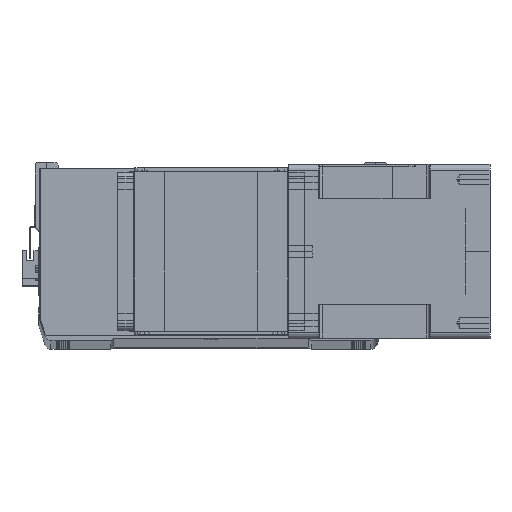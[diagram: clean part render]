
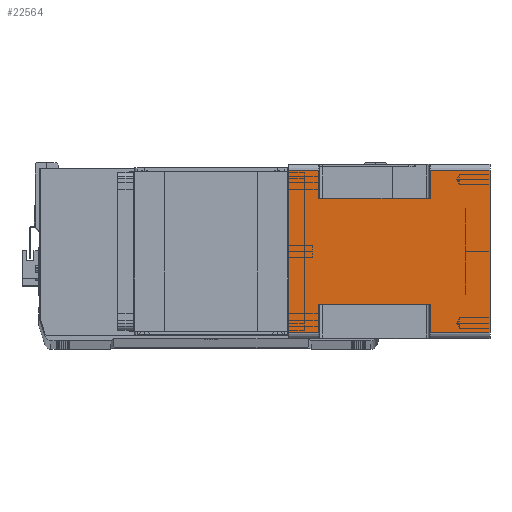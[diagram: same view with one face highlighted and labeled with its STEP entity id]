
A CAD part, top view. The second image highlights one B-rep face of the part: STEP entity #22564.
In plain terms, the highlighted planar face has unit normal (0, 0, 1) as drawn and (1, 0, 0) by its records, which use the part's own axes.
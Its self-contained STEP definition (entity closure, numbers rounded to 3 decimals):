
#620 = ORIENTED_EDGE ( 'NONE', *, *, #32372, .T. ) ;
#908 = EDGE_CURVE ( 'NONE', #22513, #6545, #33189, .T. ) ;
#1312 = VERTEX_POINT ( 'NONE', #31544 ) ;
#1318 = LINE ( 'NONE', #12912, #33467 ) ;
#1365 = VERTEX_POINT ( 'NONE', #37528 ) ;
#1391 = CARTESIAN_POINT ( 'NONE',  ( 71., -66., -164. ) ) ;
#1589 = EDGE_CURVE ( 'NONE', #19166, #6545, #36359, .T. ) ;
#1612 = LINE ( 'NONE', #31650, #11097 ) ;
#2190 = CARTESIAN_POINT ( 'NONE',  ( 71., 66., -164. ) ) ;
#2382 = DIRECTION ( 'NONE',  ( 0., 1., 0. ) ) ;
#2841 = CARTESIAN_POINT ( 'NONE',  ( 71., -43., -164. ) ) ;
#3238 = CARTESIAN_POINT ( 'NONE',  ( 71., -66., -164. ) ) ;
#3281 = CARTESIAN_POINT ( 'NONE',  ( 71., 43., -164. ) ) ;
#3648 = ORIENTED_EDGE ( 'NONE', *, *, #34698, .T. ) ;
#4395 = LINE ( 'NONE', #13515, #11207 ) ;
#4438 = LINE ( 'NONE', #3281, #12149 ) ;
#4517 = VERTEX_POINT ( 'NONE', #32357 ) ;
#4528 = DIRECTION ( 'NONE',  ( 0., 1., 0. ) ) ;
#4553 = EDGE_CURVE ( 'NONE', #24581, #14649, #8560, .T. ) ;
#4651 = ORIENTED_EDGE ( 'NONE', *, *, #11743, .T. ) ;
#5907 = PLANE ( 'NONE',  #17669 ) ;
#6521 = CARTESIAN_POINT ( 'NONE',  ( 71., -66., -164. ) ) ;
#6545 = VERTEX_POINT ( 'NONE', #27860 ) ;
#6860 = CARTESIAN_POINT ( 'NONE',  ( 71., -66., -115.5 ) ) ;
#7659 = DIRECTION ( 'NONE',  ( 0., 0., 1. ) ) ;
#7800 = EDGE_CURVE ( 'NONE', #23446, #10787, #4438, .T. ) ;
#7916 = EDGE_CURVE ( 'NONE', #24581, #13642, #24826, .T. ) ;
#8211 = CARTESIAN_POINT ( 'NONE',  ( 71., 43., -115.5 ) ) ;
#8560 = LINE ( 'NONE', #6521, #26195 ) ;
#9610 = EDGE_CURVE ( 'NONE', #19166, #4517, #17755, .T. ) ;
#9886 = VECTOR ( 'NONE', #18702, 1000. ) ;
#10048 = LINE ( 'NONE', #14335, #32248 ) ;
#10060 = VECTOR ( 'NONE', #10591, 1000. ) ;
#10591 = DIRECTION ( 'NONE',  ( 0., 1., 0. ) ) ;
#10787 = VERTEX_POINT ( 'NONE', #8211 ) ;
#11097 = VECTOR ( 'NONE', #34594, 1000. ) ;
#11207 = VECTOR ( 'NONE', #4528, 1000. ) ;
#11506 = DIRECTION ( 'NONE',  ( 1., 0., 0. ) ) ;
#11743 = EDGE_CURVE ( 'NONE', #1312, #10787, #1318, .T. ) ;
#12149 = VECTOR ( 'NONE', #17825, 1000. ) ;
#12369 = EDGE_CURVE ( 'NONE', #4517, #1365, #4395, .T. ) ;
#12912 = CARTESIAN_POINT ( 'NONE',  ( 71., 43., -115.5 ) ) ;
#13515 = CARTESIAN_POINT ( 'NONE',  ( 71., -66., 0. ) ) ;
#13642 = VERTEX_POINT ( 'NONE', #6860 ) ;
#14148 = DIRECTION ( 'NONE',  ( 0., 0., 1. ) ) ;
#14335 = CARTESIAN_POINT ( 'NONE',  ( 71., 66., -164. ) ) ;
#14649 = VERTEX_POINT ( 'NONE', #2190 ) ;
#14853 = CARTESIAN_POINT ( 'NONE',  ( 71., -66., -164. ) ) ;
#17511 = DIRECTION ( 'NONE',  ( 0., 0., 1. ) ) ;
#17661 = DIRECTION ( 'NONE',  ( 0., 1., 0. ) ) ;
#17669 = AXIS2_PLACEMENT_3D ( 'NONE', #3238, #11506, #25908 ) ;
#17755 = LINE ( 'NONE', #20095, #35929 ) ;
#17825 = DIRECTION ( 'NONE',  ( 0., 0., -1. ) ) ;
#18702 = DIRECTION ( 'NONE',  ( 0., 0., 1. ) ) ;
#18728 = DIRECTION ( 'NONE',  ( 0., -1., 0. ) ) ;
#19166 = VERTEX_POINT ( 'NONE', #31618 ) ;
#19272 = CARTESIAN_POINT ( 'NONE',  ( 71., 43., -24.5 ) ) ;
#19293 = ORIENTED_EDGE ( 'NONE', *, *, #7800, .F. ) ;
#19631 = ORIENTED_EDGE ( 'NONE', *, *, #26446, .T. ) ;
#19726 = ORIENTED_EDGE ( 'NONE', *, *, #7916, .F. ) ;
#19862 = FACE_OUTER_BOUND ( 'NONE', #29105, .T. ) ;
#20095 = CARTESIAN_POINT ( 'NONE',  ( 71., -66., -164. ) ) ;
#20719 = VECTOR ( 'NONE', #7659, 1000. ) ;
#21295 = EDGE_CURVE ( 'NONE', #14649, #1312, #10048, .T. ) ;
#21633 = LINE ( 'NONE', #33481, #20719 ) ;
#22513 = VERTEX_POINT ( 'NONE', #23138 ) ;
#22564 = ADVANCED_FACE ( 'NONE', ( #19862 ), #5907, .T. ) ;
#23138 = CARTESIAN_POINT ( 'NONE',  ( 71., -43., -115.5 ) ) ;
#23446 = VERTEX_POINT ( 'NONE', #19272 ) ;
#24581 = VERTEX_POINT ( 'NONE', #14853 ) ;
#24826 = LINE ( 'NONE', #1391, #9886 ) ;
#25727 = CARTESIAN_POINT ( 'NONE',  ( 71., 66., -24.5 ) ) ;
#25908 = DIRECTION ( 'NONE',  ( 0., 1., 0. ) ) ;
#25976 = DIRECTION ( 'NONE',  ( 0., 0., 1. ) ) ;
#26195 = VECTOR ( 'NONE', #17661, 1000. ) ;
#26446 = EDGE_CURVE ( 'NONE', #23446, #32704, #30406, .T. ) ;
#26649 = ORIENTED_EDGE ( 'NONE', *, *, #908, .F. ) ;
#27860 = CARTESIAN_POINT ( 'NONE',  ( 71., -43., -24.5 ) ) ;
#27905 = CARTESIAN_POINT ( 'NONE',  ( 71., -43., -24.5 ) ) ;
#28557 = CARTESIAN_POINT ( 'NONE',  ( 71., -66., -24.5 ) ) ;
#29105 = EDGE_LOOP ( 'NONE', ( #26649, #3648, #19726, #36522, #31382, #4651, #19293, #19631, #620, #33413, #31789, #36242 ) ) ;
#30406 = LINE ( 'NONE', #28557, #30751 ) ;
#30751 = VECTOR ( 'NONE', #2382, 1000. ) ;
#30907 = VECTOR ( 'NONE', #17511, 1000. ) ;
#31382 = ORIENTED_EDGE ( 'NONE', *, *, #21295, .T. ) ;
#31544 = CARTESIAN_POINT ( 'NONE',  ( 71., 66., -115.5 ) ) ;
#31618 = CARTESIAN_POINT ( 'NONE',  ( 71., -66., -24.5 ) ) ;
#31650 = CARTESIAN_POINT ( 'NONE',  ( 71., -66., -115.5 ) ) ;
#31789 = ORIENTED_EDGE ( 'NONE', *, *, #9610, .F. ) ;
#32248 = VECTOR ( 'NONE', #25976, 1000. ) ;
#32357 = CARTESIAN_POINT ( 'NONE',  ( 71., -66., 0. ) ) ;
#32372 = EDGE_CURVE ( 'NONE', #32704, #1365, #21633, .T. ) ;
#32704 = VERTEX_POINT ( 'NONE', #25727 ) ;
#33189 = LINE ( 'NONE', #2841, #30907 ) ;
#33413 = ORIENTED_EDGE ( 'NONE', *, *, #12369, .F. ) ;
#33467 = VECTOR ( 'NONE', #18728, 1000. ) ;
#33481 = CARTESIAN_POINT ( 'NONE',  ( 71., 66., -164. ) ) ;
#34594 = DIRECTION ( 'NONE',  ( 0., -1., 0. ) ) ;
#34698 = EDGE_CURVE ( 'NONE', #22513, #13642, #1612, .T. ) ;
#35929 = VECTOR ( 'NONE', #14148, 1000. ) ;
#36242 = ORIENTED_EDGE ( 'NONE', *, *, #1589, .T. ) ;
#36359 = LINE ( 'NONE', #27905, #10060 ) ;
#36522 = ORIENTED_EDGE ( 'NONE', *, *, #4553, .T. ) ;
#37528 = CARTESIAN_POINT ( 'NONE',  ( 71., 66., 0. ) ) ;
